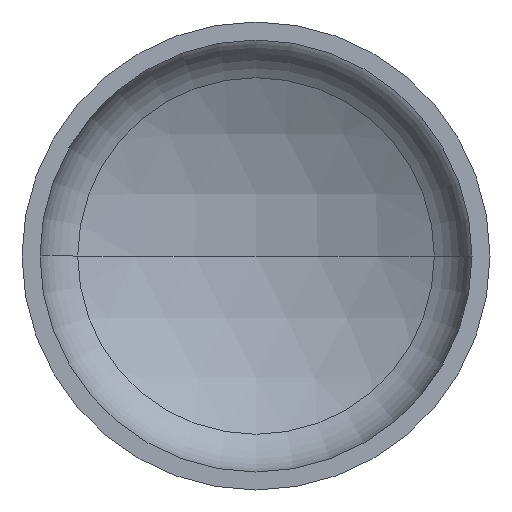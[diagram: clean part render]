
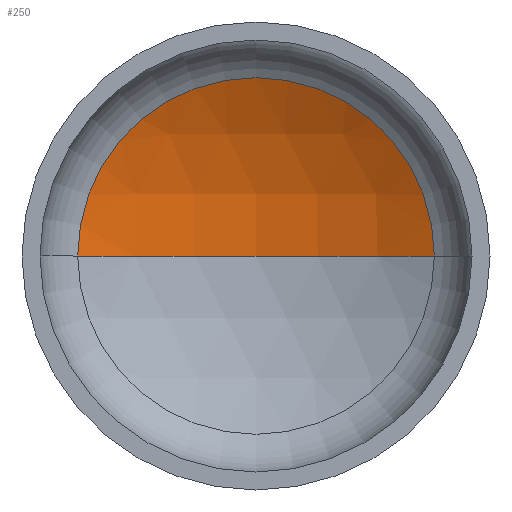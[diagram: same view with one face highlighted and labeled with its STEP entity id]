
A CAD part, front view. The second image highlights one B-rep face of the part: STEP entity #250.
In plain terms, the highlighted spherical face has radius 1040 mm.
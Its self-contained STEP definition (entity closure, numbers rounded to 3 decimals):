
#4 = CARTESIAN_POINT ( 'NONE',  ( 0., 451.353, 0. ) ) ;
#6 = AXIS2_PLACEMENT_3D ( 'NONE', #156, #392, #284 ) ;
#12 = DIRECTION ( 'NONE',  ( -1., 0., 0. ) ) ;
#18 = AXIS2_PLACEMENT_3D ( 'NONE', #179, #231, #34 ) ;
#25 = ORIENTED_EDGE ( 'NONE', *, *, #73, .T. ) ;
#29 = AXIS2_PLACEMENT_3D ( 'NONE', #361, #31, #12 ) ;
#31 = DIRECTION ( 'NONE',  ( 0., 0., -1. ) ) ;
#32 = AXIS2_PLACEMENT_3D ( 'NONE', #193, #366, #222 ) ;
#34 = DIRECTION ( 'NONE',  ( -1., 0., 0. ) ) ;
#40 = EDGE_LOOP ( 'NONE', ( #192, #88, #25 ) ) ;
#73 = EDGE_CURVE ( 'NONE', #151, #260, #237, .T. ) ;
#74 = EDGE_CURVE ( 'NONE', #112, #151, #159, .T. ) ;
#88 = ORIENTED_EDGE ( 'NONE', *, *, #74, .T. ) ;
#89 = CIRCLE ( 'NONE', #6, 1040. ) ;
#112 = VERTEX_POINT ( 'NONE', #4 ) ;
#151 = VERTEX_POINT ( 'NONE', #298 ) ;
#156 = CARTESIAN_POINT ( 'NONE',  ( 0., -588.647, 0. ) ) ;
#159 = CIRCLE ( 'NONE', #29, 1040. ) ;
#179 = CARTESIAN_POINT ( 'NONE',  ( 0., -588.647, 0. ) ) ;
#192 = ORIENTED_EDGE ( 'NONE', *, *, #347, .F. ) ;
#193 = CARTESIAN_POINT ( 'NONE',  ( 0., 325.868, 0. ) ) ;
#222 = DIRECTION ( 'NONE',  ( 1., 0., 0. ) ) ;
#225 = SPHERICAL_SURFACE ( 'NONE', #18, 1040. ) ;
#231 = DIRECTION ( 'NONE',  ( 0., 0., -1. ) ) ;
#237 = CIRCLE ( 'NONE', #32, 495.238 ) ;
#250 = ADVANCED_FACE ( 'NONE', ( #345 ), #225, .F. ) ;
#260 = VERTEX_POINT ( 'NONE', #362 ) ;
#284 = DIRECTION ( 'NONE',  ( 1., 0., 0. ) ) ;
#298 = CARTESIAN_POINT ( 'NONE',  ( 495.238, 325.868, 0. ) ) ;
#345 = FACE_OUTER_BOUND ( 'NONE', #40, .T. ) ;
#347 = EDGE_CURVE ( 'NONE', #112, #260, #89, .T. ) ;
#361 = CARTESIAN_POINT ( 'NONE',  ( 0., -588.647, 0. ) ) ;
#362 = CARTESIAN_POINT ( 'NONE',  ( -495.238, 325.868, 0. ) ) ;
#366 = DIRECTION ( 'NONE',  ( 0., -1., 0. ) ) ;
#392 = DIRECTION ( 'NONE',  ( 0., 0., 1. ) ) ;
